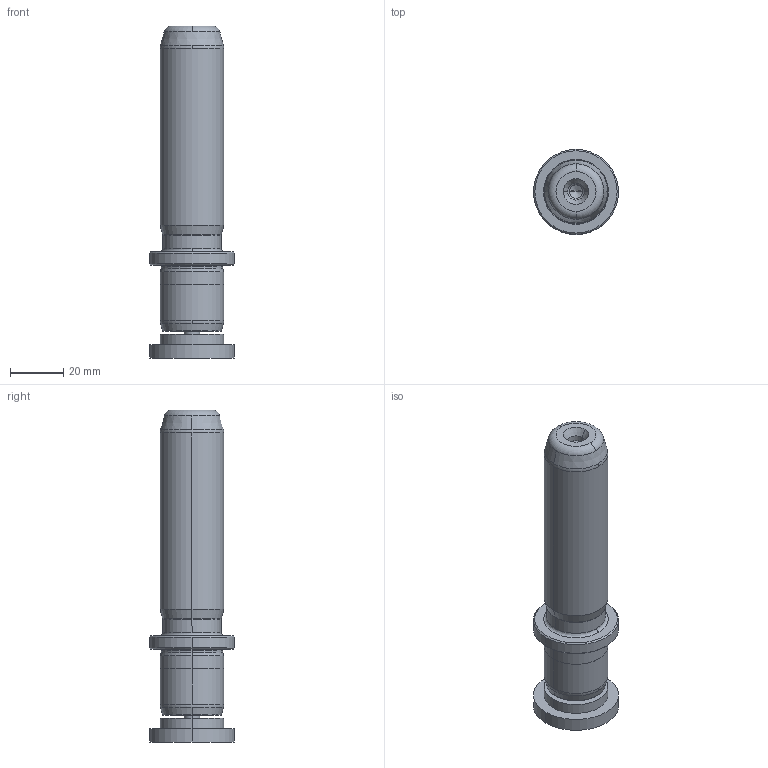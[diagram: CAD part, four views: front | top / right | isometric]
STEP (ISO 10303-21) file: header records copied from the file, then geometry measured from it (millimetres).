
FILE_DESCRIPTION((''),'2;1');
FILE_NAME('P22_024_090.stp','2009-02-02T15:28:47',(''),(''),'Mechanical Desktop 2009','Mechanical Desktop 2009',', , ');
FILE_SCHEMA(('CONFIG_CONTROL_DESIGN'));
Length unit declared in the file: millimetre
Products named in the file (2): Product; blmdl1
Assembly tree (1 placements, depth 2):
  Product
    blmdl1
Bounding box: 32 x 32 x 125 mm (x, y, z)
Volume: 57173.1 mm3; surface area: 14006.8 mm2
Topology: 3 solids, 3 shells, 99 faces, 237 edges, 149 vertices
Faces by surface type: cylinder 32, cone 28, plane 19, torus 10, bspline 10
Entity records: 3419 total; most frequent: CARTESIAN_POINT 923, DIRECTION 570, ORIENTED_EDGE 466, AXIS2_PLACEMENT_3D 246, EDGE_CURVE 233, CIRCLE 155, VERTEX_POINT 149, EDGE_LOOP 110
